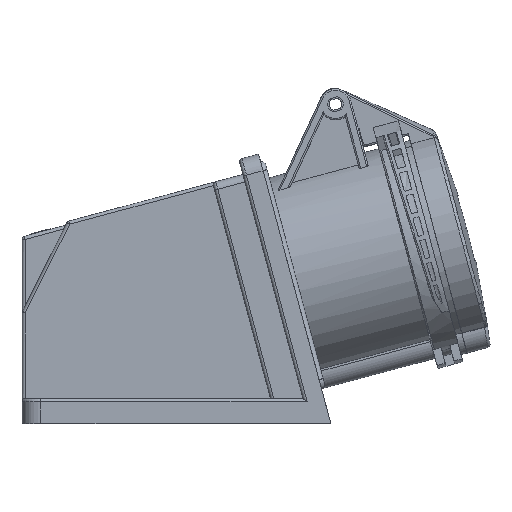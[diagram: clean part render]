
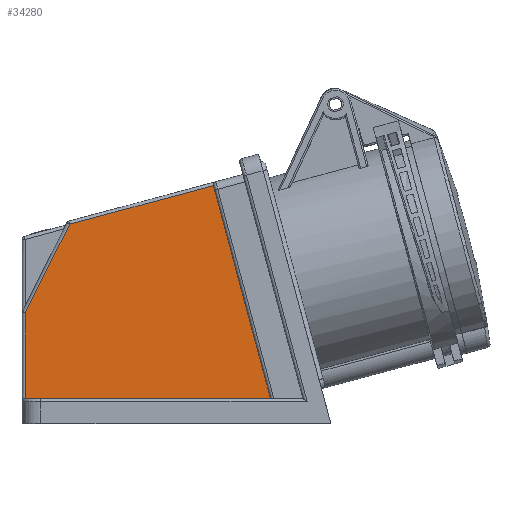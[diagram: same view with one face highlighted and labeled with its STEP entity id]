
A CAD part, left-side view. The second image highlights one B-rep face of the part: STEP entity #34280.
In plain terms, the highlighted planar face has unit normal (-1, 0, 0).
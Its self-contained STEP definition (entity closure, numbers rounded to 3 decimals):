
#20459 = VERTEX_POINT('',#20460);
#20460 = CARTESIAN_POINT('',(-28.5,-30.024,8.));
#20466 = EDGE_CURVE('',#20459,#20467,#20469,.T.);
#20467 = VERTEX_POINT('',#20468);
#20468 = CARTESIAN_POINT('',(-28.5,48.25,8.));
#20469 = LINE('',#20470,#20471);
#20470 = CARTESIAN_POINT('',(-28.5,-30.024,8.));
#20471 = VECTOR('',#20472,1.);
#20472 = DIRECTION('',(0.,1.,0.));
#20658 = EDGE_CURVE('',#20659,#20459,#20661,.T.);
#20659 = VERTEX_POINT('',#20660);
#20660 = CARTESIAN_POINT('',(-28.5,-11.83,75.901));
#20661 = LINE('',#20662,#20663);
#20662 = CARTESIAN_POINT('',(-28.5,-11.83,75.901));
#20663 = VECTOR('',#20664,1.);
#20664 = DIRECTION('',(0.,-0.259,-0.966));
#21159 = VERTEX_POINT('',#21160);
#21160 = CARTESIAN_POINT('',(-28.5,34.069,63.603));
#21182 = EDGE_CURVE('',#20659,#21159,#21183,.T.);
#21183 = LINE('',#21184,#21185);
#21184 = CARTESIAN_POINT('',(-28.5,-11.83,75.901));
#21185 = VECTOR('',#21186,1.);
#21186 = DIRECTION('',(0.,0.966,-0.259));
#34206 = EDGE_CURVE('',#21159,#34207,#34209,.T.);
#34207 = VERTEX_POINT('',#34208);
#34208 = CARTESIAN_POINT('',(-28.5,48.25,35.333));
#34209 = LINE('',#34210,#34211);
#34210 = CARTESIAN_POINT('',(-28.5,34.069,63.603));
#34211 = VECTOR('',#34212,1.);
#34212 = DIRECTION('',(0.,0.448,-0.894));
#34268 = EDGE_CURVE('',#34207,#20467,#34269,.T.);
#34269 = LINE('',#34270,#34271);
#34270 = CARTESIAN_POINT('',(-28.5,48.25,35.333));
#34271 = VECTOR('',#34272,1.);
#34272 = DIRECTION('',(0.,0.,-1.));
#34280 = ADVANCED_FACE('',(#34281),#34288,.F.);
#34281 = FACE_BOUND('',#34282,.T.);
#34282 = EDGE_LOOP('',(#34283,#34284,#34285,#34286,#34287));
#34283 = ORIENTED_EDGE('',*,*,#20466,.F.);
#34284 = ORIENTED_EDGE('',*,*,#20658,.F.);
#34285 = ORIENTED_EDGE('',*,*,#21182,.T.);
#34286 = ORIENTED_EDGE('',*,*,#34206,.T.);
#34287 = ORIENTED_EDGE('',*,*,#34268,.T.);
#34288 = PLANE('',#34289);
#34289 = AXIS2_PLACEMENT_3D('',#34290,#34291,#34292);
#34290 = CARTESIAN_POINT('',(-28.5,0.,0.));
#34291 = DIRECTION('',(1.,0.,0.));
#34292 = DIRECTION('',(0.,-1.,0.));
